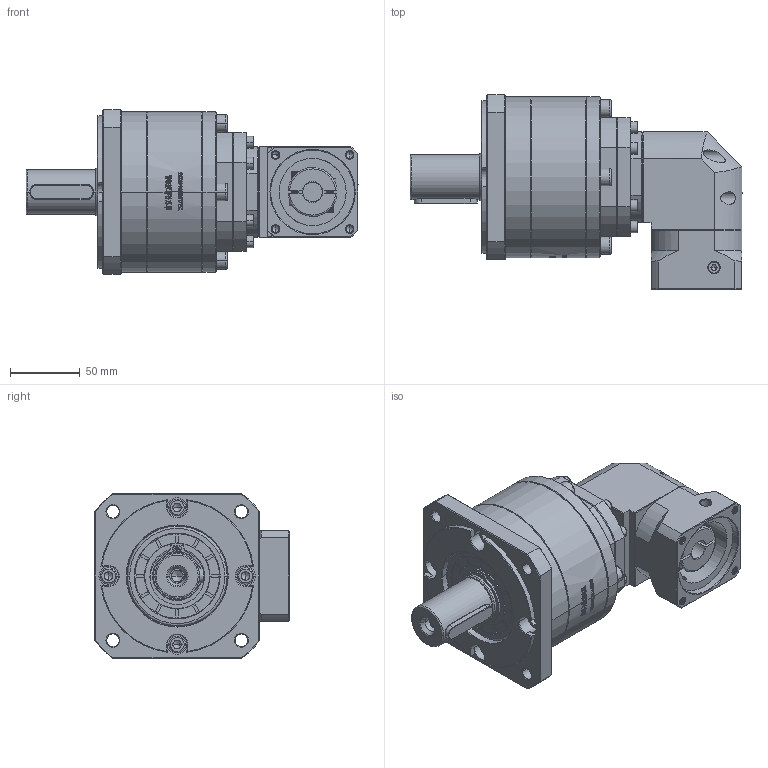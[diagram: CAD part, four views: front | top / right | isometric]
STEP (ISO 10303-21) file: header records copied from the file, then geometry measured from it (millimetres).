
FILE_DESCRIPTION (( 'STEP AP214' ), '1' );
FILE_NAME ('ZFR120A-D32-L3-14-60-75-M6.step', '2023-03-08T14:54:59', ( '' ), ( 'Microsoft' ), 'SwSTEP 2.0', 'SolidWorks 2016', '' );
FILE_SCHEMA (( 'AUTOMOTIVE_DESIGN' ));
Length unit declared in the file: millimetre
Products named in the file (1): ZFR120A-D32-L3-14-60-75-M6
Bounding box: 237.5 x 139.2 x 118 mm (x, y, z)
Volume: 1496809.2 mm3; surface area: 141887.9 mm2
Topology: 6 solids, 6 shells, 3038 faces, 8039 edges, 5157 vertices
Faces by surface type: plane 1595, bspline 637, cylinder 460, cone 346
Entity records: 162192 total; most frequent: CARTESIAN_POINT 59467, ORIENTED_EDGE 15970, DIRECTION 11817, EDGE_CURVE 7985, VERTEX_POINT 5157, VECTOR 5019, LINE 5019, AXIS2_PLACEMENT_3D 3399
